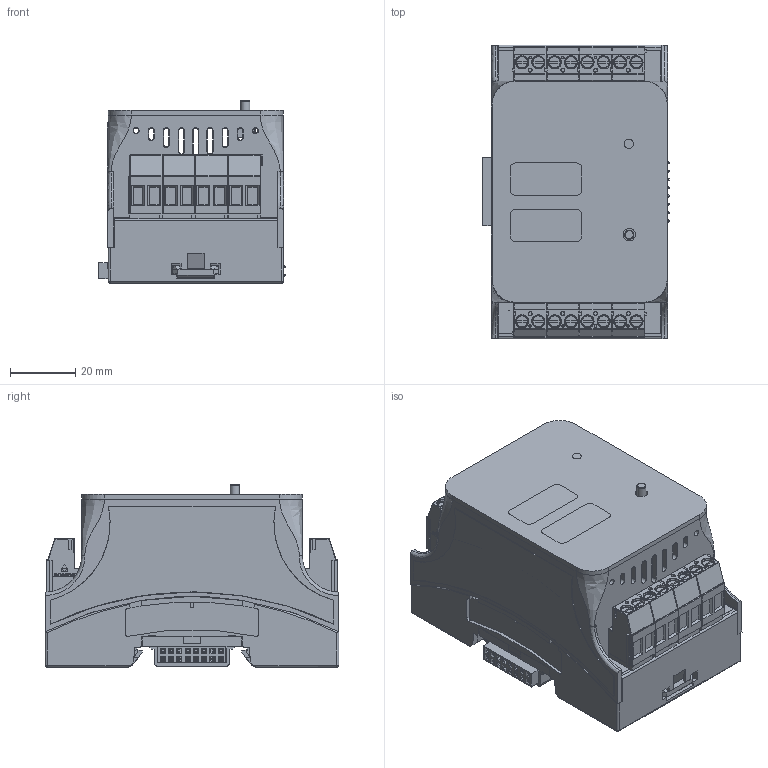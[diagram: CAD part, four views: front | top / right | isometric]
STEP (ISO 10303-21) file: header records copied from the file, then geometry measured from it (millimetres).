
FILE_DESCRIPTION(/* description */ (''),/* implementation_level */ '2;1');
FILE_NAME(/* name */ 'D:\WorkIMT\Project IMT\МВВ\v1\3D на сайт\4AI4AO (8U) для сайта 2.stp',/* time_stamp */ '2026-06-09T08:42:51+03:00',/* author */ ('admin'),/* organization */ (''),/* preprocessor_version */ 'ST-DEVELOPER v17.2',/* originating_system */ 'Autodesk Inventor 2019',/* authorisation */ '');
FILE_SCHEMA (('AUTOMOTIVE_DESIGN { 1 0 10303 214 3 1 1 }'));
Products named in the file (1): 4AI4AO (8U) для сайта 
2
Bounding box: 57.13 x 89.74 x 55.75 mm (x, y, z)
Volume: 67046.6 mm3; surface area: 74879 mm2
Topology: 2 solids, 71 shells, 7712 faces, 21305 edges, 13743 vertices
Faces by surface type: plane 6381, cylinder 755, bspline 225, cone 198, torus 86, sphere 67
Full cylindrical faces by diameter (mm): 0.2 x186, 0.3 x1, 0.4 x1, 1.2 x18, 1.8 x2, 2.2 x8, 2.8 x1, 3.8 x1, 4.05 x16
Entity records: 266317 total; most frequent: CARTESIAN_POINT 62007, ORIENTED_EDGE 42472, DIRECTION 37871, EDGE_CURVE 21236, LINE 17847, VECTOR 17847, VERTEX_POINT 13743, AXIS2_PLACEMENT_3D 10012
